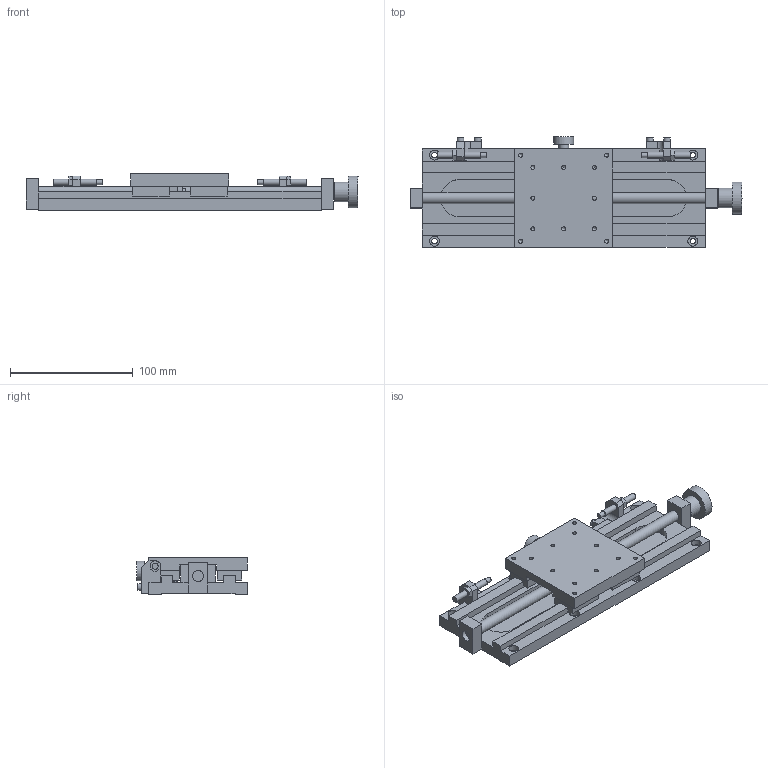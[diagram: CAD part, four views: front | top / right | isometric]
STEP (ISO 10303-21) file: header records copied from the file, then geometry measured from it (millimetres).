
FILE_DESCRIPTION( ( 'STEP AP214' ), '1' );
FILE_NAME( 'C:/Project/3D_B15-150-配布-070508.stp', '2007-05-08T10:42:35', ( ' ' ), ( ' ' ), 'XStep 1.0', ' ', ' ' );
FILE_SCHEMA( ( 'automotive_design' ) );
Length unit declared in the file: millimetre
Products named in the file (7): 1; 2; 3; 4; 5; 6; 7
Bounding box: 270 x 90 x 30 mm (x, y, z)
Volume: 272081.6 mm3; surface area: 96123.7 mm2
Topology: 7 solids, 7 shells, 298 faces, 724 edges, 467 vertices
Faces by surface type: plane 183, cylinder 88, cone 27
Full cylindrical faces by diameter (mm): 3 x21, 3.3 x22, 4 x2, 4.5 x8, 4.98 x2, 5 x2, 5.5 x6, 8 x9, 9 x4, 15 x1, 16 x2, 26 x1
Entity records: 10426 total; most frequent: DIRECTION 1362, CARTESIAN_POINT 1338, ORIENTED_EDGE 1156, EDGE_CURVE 578, AXIS2_PLACEMENT_3D 479, EDGE_LOOP 466, VERTEX_POINT 455, LINE 404
